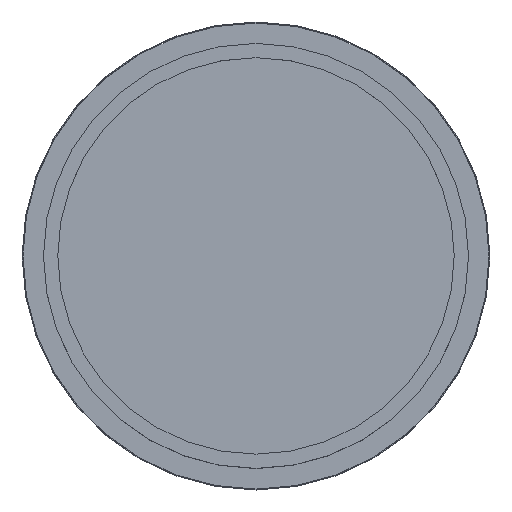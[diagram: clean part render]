
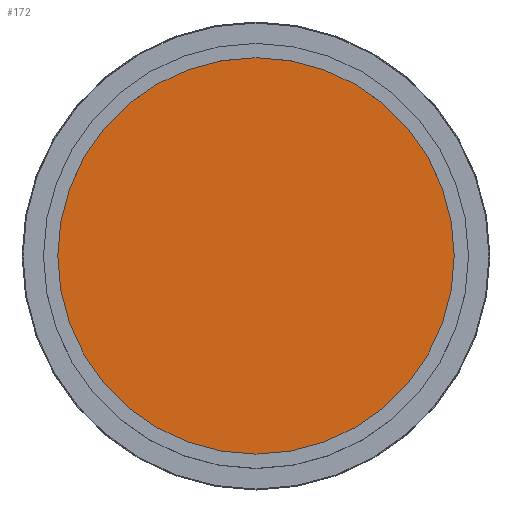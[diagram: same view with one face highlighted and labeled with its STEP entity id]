
A CAD part, top view. The second image highlights one B-rep face of the part: STEP entity #172.
In plain terms, the highlighted planar face has unit normal (0, 0, 1).
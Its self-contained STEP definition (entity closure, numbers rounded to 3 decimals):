
#4 = CIRCLE ( 'NONE', #513, 277.5 ) ;
#22 = CIRCLE ( 'NONE', #500, 277.5 ) ;
#61 = EDGE_CURVE ( 'NONE', #137, #123, #4, .T. ) ;
#73 = EDGE_CURVE ( 'NONE', #123, #137, #22, .T. ) ;
#113 = ORIENTED_EDGE ( 'NONE', *, *, #61, .T. ) ;
#116 = ORIENTED_EDGE ( 'NONE', *, *, #73, .T. ) ;
#123 = VERTEX_POINT ( 'NONE', #248 ) ;
#137 = VERTEX_POINT ( 'NONE', #398 ) ;
#172 = ADVANCED_FACE ( 'NONE', ( #422 ), #286, .F. ) ;
#248 = CARTESIAN_POINT ( 'NONE',  ( -277.5, 0., 60. ) ) ;
#282 = DIRECTION ( 'NONE',  ( 0., 0., -1. ) ) ;
#283 = DIRECTION ( 'NONE',  ( -1., 0., 0. ) ) ;
#286 = PLANE ( 'NONE',  #470 ) ;
#288 = CARTESIAN_POINT ( 'NONE',  ( 0., 0., 60. ) ) ;
#398 = CARTESIAN_POINT ( 'NONE',  ( 277.5, 0., 60. ) ) ;
#422 = FACE_OUTER_BOUND ( 'NONE', #809, .T. ) ;
#470 = AXIS2_PLACEMENT_3D ( 'NONE', #288, #282, #283 ) ;
#500 = AXIS2_PLACEMENT_3D ( 'NONE', #651, #649, #642 ) ;
#513 = AXIS2_PLACEMENT_3D ( 'NONE', #734, #732, #730 ) ;
#642 = DIRECTION ( 'NONE',  ( 1., 0., 0. ) ) ;
#649 = DIRECTION ( 'NONE',  ( 0., 0., 1. ) ) ;
#651 = CARTESIAN_POINT ( 'NONE',  ( 0., 0., 60. ) ) ;
#730 = DIRECTION ( 'NONE',  ( 1., 0., 0. ) ) ;
#732 = DIRECTION ( 'NONE',  ( 0., 0., 1. ) ) ;
#734 = CARTESIAN_POINT ( 'NONE',  ( 0., 0., 60. ) ) ;
#809 = EDGE_LOOP ( 'NONE', ( #116, #113 ) ) ;
